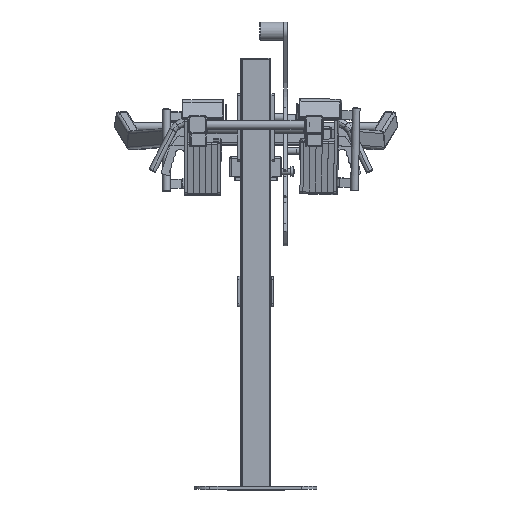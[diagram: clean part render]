
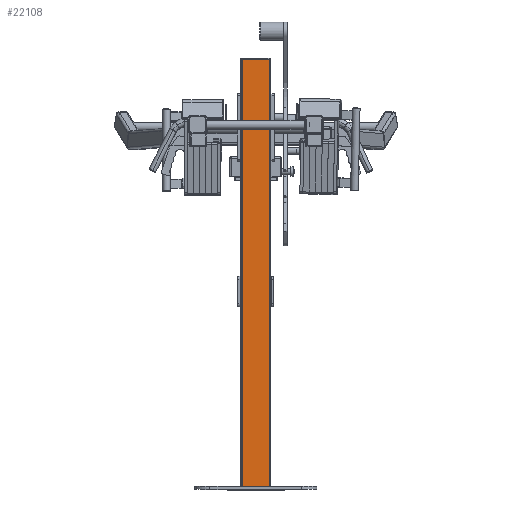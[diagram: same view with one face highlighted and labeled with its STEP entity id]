
A CAD part, top view. The second image highlights one B-rep face of the part: STEP entity #22108.
In plain terms, the highlighted planar face has unit normal (0, 0, 1).
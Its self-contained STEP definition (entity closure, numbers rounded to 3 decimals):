
#2039=FACE_OUTER_BOUND('',#3450,.T.);
#3450=EDGE_LOOP('',(#18402,#18403,#18404,#18405));
#6260=LINE('',#40110,#8253);
#6263=LINE('',#40125,#8256);
#6268=LINE('',#40133,#8261);
#6285=LINE('',#40183,#8278);
#8253=VECTOR('',#29492,10.);
#8256=VECTOR('',#29505,10.);
#8261=VECTOR('',#29514,10.);
#8278=VECTOR('',#29565,10.);
#10272=VERTEX_POINT('',#40104);
#10274=VERTEX_POINT('',#40108);
#10279=VERTEX_POINT('',#40121);
#10281=VERTEX_POINT('',#40124);
#13059=EDGE_CURVE('',#10272,#10274,#6260,.T.);
#13065=EDGE_CURVE('',#10279,#10281,#6263,.T.);
#13071=EDGE_CURVE('',#10279,#10272,#6268,.T.);
#13096=EDGE_CURVE('',#10281,#10274,#6285,.T.);
#18402=ORIENTED_EDGE('',*,*,#13071,.T.);
#18403=ORIENTED_EDGE('',*,*,#13059,.T.);
#18404=ORIENTED_EDGE('',*,*,#13096,.F.);
#18405=ORIENTED_EDGE('',*,*,#13065,.F.);
#21004=PLANE('',#24237);
#22108=ADVANCED_FACE('',(#2039),#21004,.T.);
#24237=AXIS2_PLACEMENT_3D('',#40182,#29563,#29564);
#29492=DIRECTION('',(0.,-1.,0.));
#29505=DIRECTION('',(0.,-1.,0.));
#29514=DIRECTION('',(-1.,0.,0.));
#29563=DIRECTION('center_axis',(0.,0.,
1.));
#29564=DIRECTION('ref_axis',(1.,0.,0.));
#29565=DIRECTION('',(-1.,0.,0.));
#40104=CARTESIAN_POINT('',(-244.,1408.,-150.));
#40108=CARTESIAN_POINT('',(-244.,8.,-150.));
#40110=CARTESIAN_POINT('',(-244.,1408.,-150.));
#40121=CARTESIAN_POINT('',(-156.,1408.,-150.));
#40124=CARTESIAN_POINT('',(-156.,8.,-150.));
#40125=CARTESIAN_POINT('',(-156.,1408.,-150.));
#40133=CARTESIAN_POINT('',(-264.194,1408.,-150.));
#40182=CARTESIAN_POINT('Origin',(-314.4,-66.4,-150.));
#40183=CARTESIAN_POINT('',(-244.,8.,-150.));
